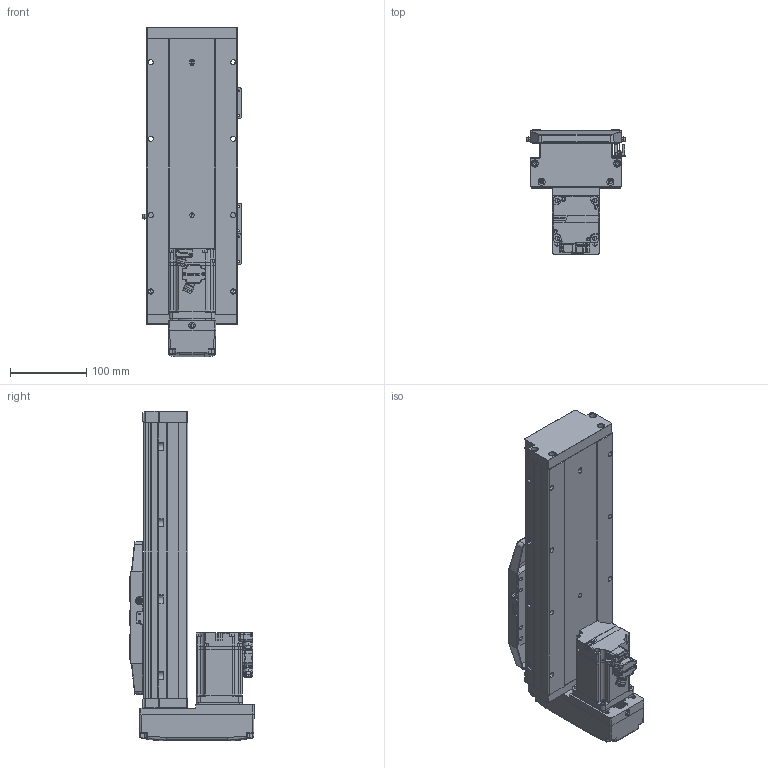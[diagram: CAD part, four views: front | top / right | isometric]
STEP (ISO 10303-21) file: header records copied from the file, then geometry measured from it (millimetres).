
FILE_DESCRIPTION (( 'STEP AP203' ), '1' );
FILE_NAME ('3.STEP', '2021-03-04T00:44:15', ( '' ), ( '' ), 'SwSTEP 2.0', 'SolidWorks 2016', '' );
FILE_SCHEMA (( 'CONFIG_CONTROL_DESIGN' ));
Length unit declared in the file: millimetre
Products named in the file (10): 3; CTH12-BM-07; CTH12-BM-02; PM-Y45; CTH12-BM-HZ; CTH12-BM-01; CTH12-BM-05; CTH12-BM -04; CTH12-BM-菁釱; MS1H1-40B30CB-A331Z-S_ASM_1
Assembly tree (14 placements, depth 2):
  3
    CTH12-BM-菁釱
    CTH12-BM-01
    CTH12-BM -04
    CTH12-BM-05  x2
    CTH12-BM-07  x3
    CTH12-BM-HZ
    PM-Y45  x3
    MS1H1-40B30CB-A331Z-S_ASM_1
    CTH12-BM-02
Bounding box: 129 x 162.5 x 431.5 mm (x, y, z)
Volume: 2700291.1 mm3; surface area: 445621.1 mm2
Topology: 25 solids, 51 shells, 3385 faces, 9077 edges, 5854 vertices
Faces by surface type: plane 1893, cylinder 965, bspline 323, cone 204
Entity records: 111116 total; most frequent: CARTESIAN_POINT 32253, ORIENTED_EDGE 16740, DIRECTION 15302, EDGE_CURVE 8386, VERTEX_POINT 5454, VECTOR 5450, LINE 5450, AXIS2_PLACEMENT_3D 4926
